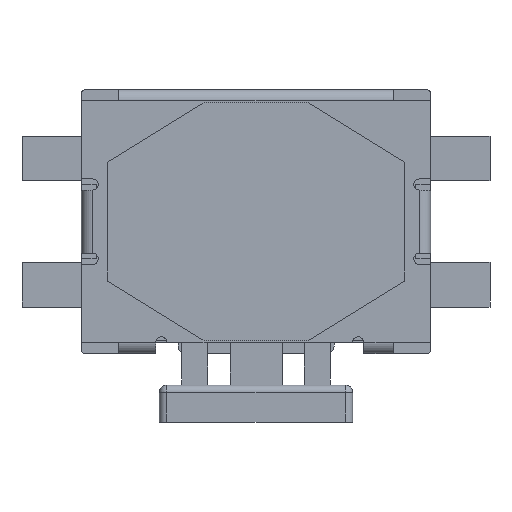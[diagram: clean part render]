
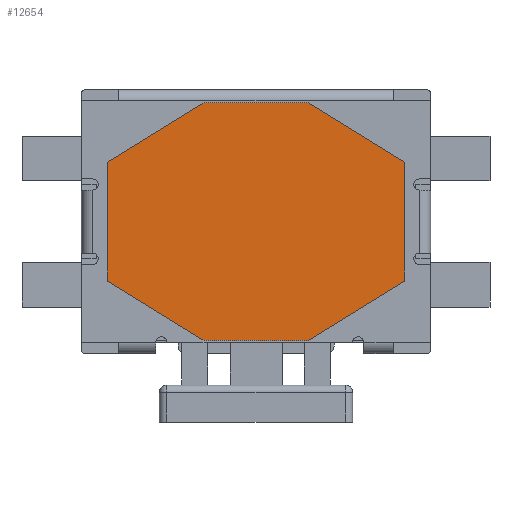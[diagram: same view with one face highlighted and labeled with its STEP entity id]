
A CAD part, front view. The second image highlights one B-rep face of the part: STEP entity #12654.
In plain terms, the highlighted planar face has unit normal (0, -1, 0).
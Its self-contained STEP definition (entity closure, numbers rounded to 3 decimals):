
#12415=DIRECTION('',(-0.852,0.,0.524));
#12416=VECTOR('',#12415,1.526);
#12417=CARTESIAN_POINT('',(2.,-0.17,0.8));
#12418=LINE('',#12417,#12416);
#12422=DIRECTION('',(0.,0.,-1.));
#12423=VECTOR('',#12422,1.6);
#12424=CARTESIAN_POINT('',(2.,-0.17,0.8));
#12425=LINE('',#12424,#12423);
#12429=DIRECTION('',(0.852,0.,0.524));
#12430=VECTOR('',#12429,1.526);
#12431=CARTESIAN_POINT('',(0.7,-0.17,-1.6));
#12432=LINE('',#12431,#12430);
#12436=DIRECTION('',(-1.,0.,0.));
#12437=VECTOR('',#12436,1.4);
#12438=CARTESIAN_POINT('',(0.7,-0.17,-1.6));
#12439=LINE('',#12438,#12437);
#12443=DIRECTION('',(0.852,0.,-0.524));
#12444=VECTOR('',#12443,1.526);
#12445=CARTESIAN_POINT('',(-2.,-0.17,-0.8));
#12446=LINE('',#12445,#12444);
#12450=DIRECTION('',(0.,0.,1.));
#12451=VECTOR('',#12450,1.6);
#12452=CARTESIAN_POINT('',(-2.,-0.17,-0.8));
#12453=LINE('',#12452,#12451);
#12457=DIRECTION('',(-0.852,0.,-0.524));
#12458=VECTOR('',#12457,1.526);
#12459=CARTESIAN_POINT('',(-0.7,-0.17,1.6));
#12460=LINE('',#12459,#12458);
#12464=DIRECTION('',(1.,0.,0.));
#12465=VECTOR('',#12464,1.4);
#12466=CARTESIAN_POINT('',(-0.7,-0.17,1.6));
#12467=LINE('',#12466,#12465);
#12475=CARTESIAN_POINT('',(2.,-0.17,0.8));
#12476=VERTEX_POINT('',#12475);
#12477=CARTESIAN_POINT('',(0.7,-0.17,1.6));
#12478=VERTEX_POINT('',#12477);
#12483=CARTESIAN_POINT('',(-0.7,-0.17,1.6));
#12484=VERTEX_POINT('',#12483);
#12485=CARTESIAN_POINT('',(-2.,-0.17,0.8));
#12486=VERTEX_POINT('',#12485);
#12491=CARTESIAN_POINT('',(-2.,-0.17,-0.8));
#12492=VERTEX_POINT('',#12491);
#12493=CARTESIAN_POINT('',(-0.7,-0.17,-1.6));
#12494=VERTEX_POINT('',#12493);
#12499=CARTESIAN_POINT('',(0.7,-0.17,-1.6));
#12500=VERTEX_POINT('',#12499);
#12501=CARTESIAN_POINT('',(2.,-0.17,-0.8));
#12502=VERTEX_POINT('',#12501);
#12639=CARTESIAN_POINT('',(0.,-0.17,0.));
#12640=DIRECTION('',(0.,-1.,0.));
#12641=DIRECTION('',(-1.,0.,0.));
#12642=AXIS2_PLACEMENT_3D('',#12639,#12640,#12641);
#12643=PLANE('',#12642);
#12644=ORIENTED_EDGE('',*,*,#12535,.F.);
#12645=ORIENTED_EDGE('',*,*,#12551,.T.);
#12646=ORIENTED_EDGE('',*,*,#12564,.F.);
#12647=ORIENTED_EDGE('',*,*,#12577,.T.);
#12648=ORIENTED_EDGE('',*,*,#12592,.F.);
#12649=ORIENTED_EDGE('',*,*,#12605,.T.);
#12650=ORIENTED_EDGE('',*,*,#12620,.F.);
#12651=ORIENTED_EDGE('',*,*,#12632,.T.);
#12652=EDGE_LOOP('',(#12644,#12645,#12646,#12647,#12648,#12649,#12650,#12651));
#12653=FACE_OUTER_BOUND('',#12652,.F.);
#12535=EDGE_CURVE('',#12476,#12478,#12418,.T.);
#12551=EDGE_CURVE('',#12476,#12502,#12425,.T.);
#12564=EDGE_CURVE('',#12500,#12502,#12432,.T.);
#12577=EDGE_CURVE('',#12500,#12494,#12439,.T.);
#12592=EDGE_CURVE('',#12492,#12494,#12446,.T.);
#12605=EDGE_CURVE('',#12492,#12486,#12453,.T.);
#12620=EDGE_CURVE('',#12484,#12486,#12460,.T.);
#12632=EDGE_CURVE('',#12484,#12478,#12467,.T.);
#12654=ADVANCED_FACE('',(#12653),#12643,.T.);
